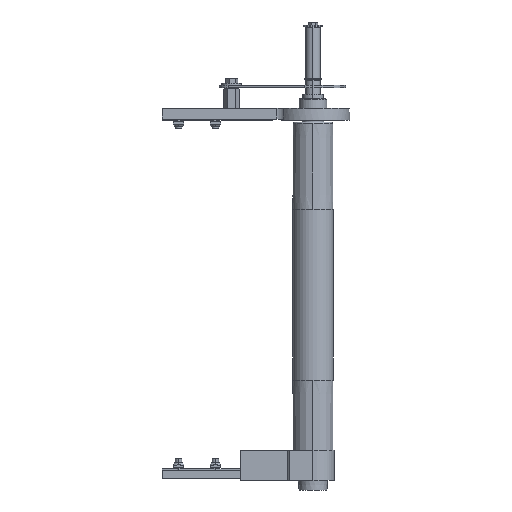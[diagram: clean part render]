
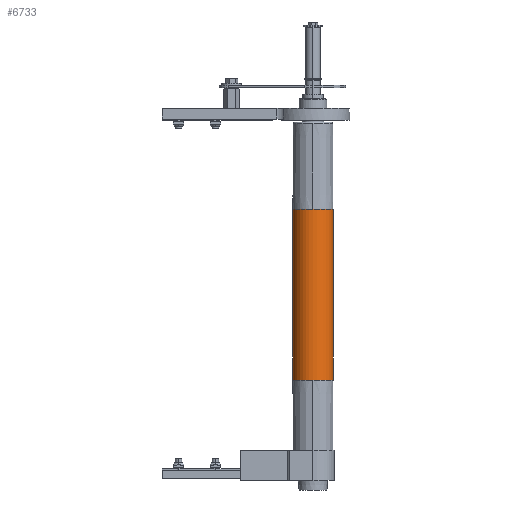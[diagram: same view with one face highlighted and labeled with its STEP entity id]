
A CAD part, front view. The second image highlights one B-rep face of the part: STEP entity #6733.
In plain terms, the highlighted cylindrical face has radius 25 mm (diameter 50 mm), a partial arc.
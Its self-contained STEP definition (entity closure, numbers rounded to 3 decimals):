
#95 = AXIS2_PLACEMENT_3D ( 'NONE', #19156, #19154, #19152 ) ;
#611 = AXIS2_PLACEMENT_3D ( 'NONE', #4384, #4385, #4386 ) ;
#615 = AXIS2_PLACEMENT_3D ( 'NONE', #4401, #4402, #4403 ) ;
#680 = AXIS2_PLACEMENT_3D ( 'NONE', #1380, #1381, #1382 ) ;
#681 = AXIS2_PLACEMENT_3D ( 'NONE', #1383, #1384, #1385 ) ;
#1372 = DIRECTION ( 'NONE',  ( 0., 0., -1. ) ) ;
#1377 = CARTESIAN_POINT ( 'NONE',  ( -25., 0., 210. ) ) ;
#1378 = CARTESIAN_POINT ( 'NONE',  ( 25., 0., 210. ) ) ;
#1379 = DIRECTION ( 'NONE',  ( 0., 0., -1. ) ) ;
#1380 = CARTESIAN_POINT ( 'NONE',  ( 0., 0., 105. ) ) ;
#1381 = DIRECTION ( 'NONE',  ( 0., 0., -1. ) ) ;
#1382 = DIRECTION ( 'NONE',  ( 0., 1., 0. ) ) ;
#1383 = CARTESIAN_POINT ( 'NONE',  ( 0., 0., -105. ) ) ;
#1384 = DIRECTION ( 'NONE',  ( 0., 0., -1. ) ) ;
#1385 = DIRECTION ( 'NONE',  ( 0., 1., 0. ) ) ;
#4384 = CARTESIAN_POINT ( 'NONE',  ( 0., 0., 105. ) ) ;
#4385 = DIRECTION ( 'NONE',  ( 0., 0., -1. ) ) ;
#4386 = DIRECTION ( 'NONE',  ( 0., 1., 0. ) ) ;
#4401 = CARTESIAN_POINT ( 'NONE',  ( 0., 0., -105. ) ) ;
#4402 = DIRECTION ( 'NONE',  ( 0., 0., -1. ) ) ;
#4403 = DIRECTION ( 'NONE',  ( 0., 1., 0. ) ) ;
#6733 = ADVANCED_FACE ( 'NONE', ( #13011 ), #13017, .T. ) ;
#7381 = ORIENTED_EDGE ( 'NONE', *, *, #17021, .F. ) ;
#7382 = ORIENTED_EDGE ( 'NONE', *, *, #16859, .F. ) ;
#7383 = ORIENTED_EDGE ( 'NONE', *, *, #17020, .F. ) ;
#7384 = ORIENTED_EDGE ( 'NONE', *, *, #17019, .T. ) ;
#7385 = ORIENTED_EDGE ( 'NONE', *, *, #17018, .T. ) ;
#7386 = ORIENTED_EDGE ( 'NONE', *, *, #16852, .T. ) ;
#8791 = CARTESIAN_POINT ( 'NONE',  ( 25., 0., -105. ) ) ;
#8839 = CARTESIAN_POINT ( 'NONE',  ( -25., 0., -105. ) ) ;
#12316 = CIRCLE ( 'NONE', #611, 25. ) ;
#12324 = CIRCLE ( 'NONE', #615, 25. ) ;
#13011 = FACE_OUTER_BOUND ( 'NONE', #23493, .T. ) ;
#13017 = CYLINDRICAL_SURFACE ( 'NONE', #95, 25. ) ;
#14613 = VERTEX_POINT ( 'NONE', #16327 ) ;
#14622 = VERTEX_POINT ( 'NONE', #16335 ) ;
#14669 = VERTEX_POINT ( 'NONE', #16382 ) ;
#14673 = VERTEX_POINT ( 'NONE', #16386 ) ;
#16327 = CARTESIAN_POINT ( 'NONE',  ( 0., -25., 105. ) ) ;
#16335 = CARTESIAN_POINT ( 'NONE',  ( 0., -25., -105. ) ) ;
#16382 = CARTESIAN_POINT ( 'NONE',  ( 25., 0., 105. ) ) ;
#16386 = CARTESIAN_POINT ( 'NONE',  ( -25., 0., 105. ) ) ;
#16852 = EDGE_CURVE ( 'NONE', #14669, #14613, #12316, .T. ) ;
#16859 = EDGE_CURVE ( 'NONE', #17626, #14622, #12324, .T. ) ;
#17018 = EDGE_CURVE ( 'NONE', #14613, #14673, #20270, .T. ) ;
#17019 = EDGE_CURVE ( 'NONE', #14673, #17674, #20273, .T. ) ;
#17020 = EDGE_CURVE ( 'NONE', #14622, #17674, #20274, .T. ) ;
#17021 = EDGE_CURVE ( 'NONE', #14669, #17626, #20276, .T. ) ;
#17626 = VERTEX_POINT ( 'NONE', #8791 ) ;
#17674 = VERTEX_POINT ( 'NONE', #8839 ) ;
#19152 = DIRECTION ( 'NONE',  ( 1., 0., 0. ) ) ;
#19154 = DIRECTION ( 'NONE',  ( 0., 0., -1. ) ) ;
#19156 = CARTESIAN_POINT ( 'NONE',  ( 0., 0., 210. ) ) ;
#20270 = CIRCLE ( 'NONE', #680, 25. ) ;
#20273 = LINE ( 'NONE', #1377, #20275 ) ;
#20274 = CIRCLE ( 'NONE', #681, 25. ) ;
#20275 = VECTOR ( 'NONE', #1372, 1000. ) ;
#20276 = LINE ( 'NONE', #1378, #20278 ) ;
#20278 = VECTOR ( 'NONE', #1379, 1000. ) ;
#23493 = EDGE_LOOP ( 'NONE', ( #7386, #7385, #7384, #7383, #7382, #7381 ) ) ;
